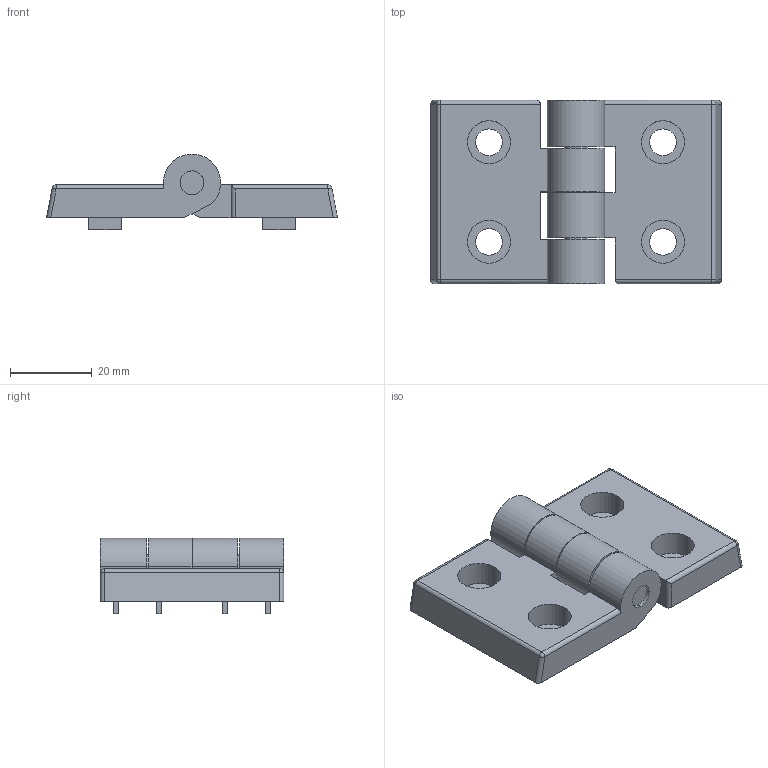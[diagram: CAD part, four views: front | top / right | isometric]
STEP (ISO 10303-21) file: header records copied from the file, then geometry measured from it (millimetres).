
FILE_DESCRIPTION (( 'STEP AP214' ), '1' );
FILE_NAME ('SNSD.30.51.06. Ïåòëÿ ïëàñòèêîâàÿ 45(D24).STEP', '2014-11-27T12:43:42', ( 'XTreme.ws' ), ( 'XTreme.ws' ), 'SwSTEP 2.0', 'SolidWorks 2014', '' );
FILE_SCHEMA (( 'AUTOMOTIVE_DESIGN' ));
Length unit declared in the file: millimetre
Products named in the file (4): SNSD.30.51.00. Ïåòëÿ ïëàñòèêîâàÿ (B18)E20E21D24_00; SNSD.30.51.06. Ïåòëÿ ïëàñòèêîâàÿ 45(D24); SNSD.30.51.00. ﾏ琿褻 (B18)E20E21D24_00; SNSD.30.51.00. Ïåòëÿ ïëàñòèêîâàÿ ìàëàÿ ÷àñòü(B18)E20E21D24_00
Assembly tree (3 placements, depth 2):
  SNSD.30.51.06. Ïåòëÿ ïëàñòèêîâàÿ 45(D24)
    SNSD.30.51.00. Ïåòëÿ ïëàñòèêîâàÿ (B18)E20E21D24_00
    SNSD.30.51.00. Ïåòëÿ ïëàñòèêîâàÿ ìàëàÿ ÷àñòü(B18)E20E21D24_00
    SNSD.30.51.00. ﾏ琿褻 (B18)E20E21D24_00
Bounding box: 70.96 x 44.8 x 18.5 mm (x, y, z)
Volume: 24539.9 mm3; surface area: 12471.2 mm2
Topology: 3 solids, 3 shells, 124 faces, 308 edges, 198 vertices
Faces by surface type: plane 70, cylinder 50, sphere 4
Entity records: 3846 total; most frequent: CARTESIAN_POINT 668, DIRECTION 646, ORIENTED_EDGE 608, EDGE_CURVE 304, AXIS2_PLACEMENT_3D 220, VECTOR 206, LINE 206, VERTEX_POINT 198
